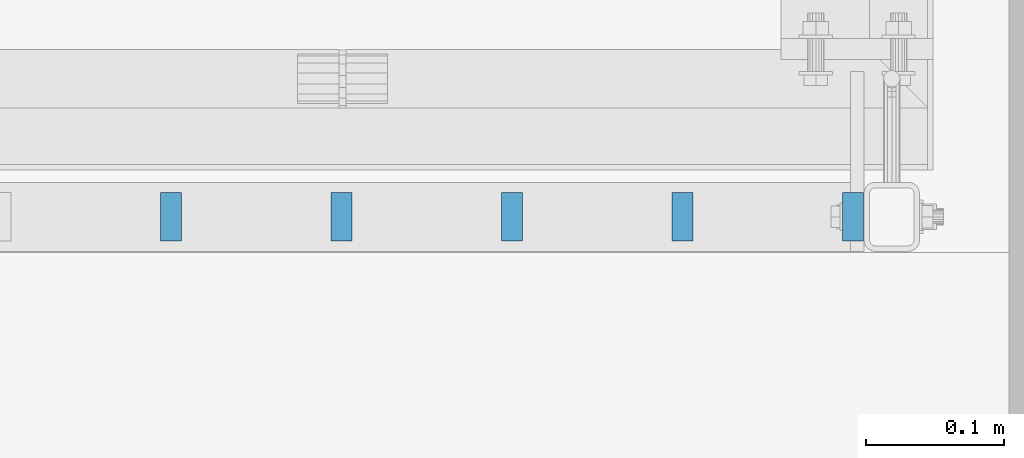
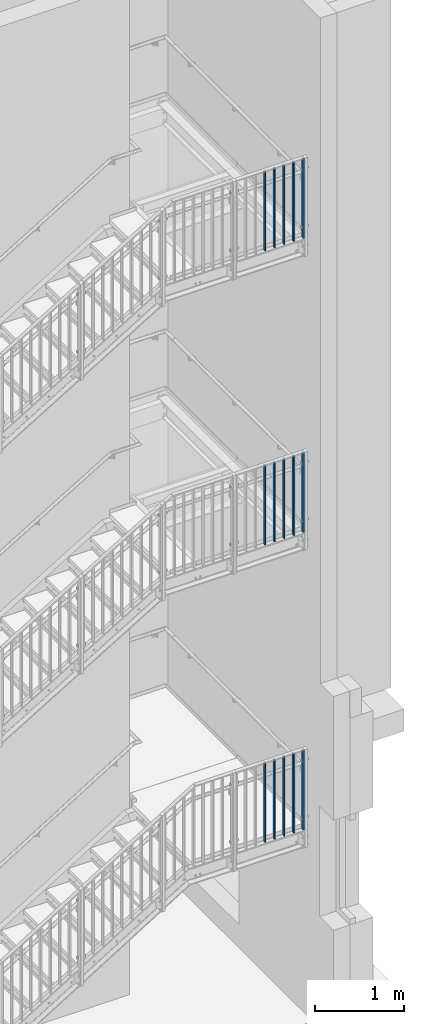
# One storey, part 23 of 410: 15 columns, 6 openings.
"""IFC2X3 building model written with IfcOpenShell, lengths in millimetres."""

from ifc_helpers import new_model, entity, si_unit, converted_unit, frame, frame_2d, origin, origin_with_axes, origin_2d, place, context, project, spatial, rectangle, circle, extrude, material, element, save


model = new_model("IFC2X3")

# Units and contexts
model_context = context("Model", 3, precision=1e-09, world=origin_with_axes())
ifc_project = project(units=[si_unit("LENGTHUNIT", "METRE", prefix="MILLI"), si_unit("AREAUNIT", "SQUARE_METRE"), si_unit("VOLUMEUNIT", "CUBIC_METRE"), converted_unit("PLANEANGLEUNIT", "DEGREE", entity("IfcPlaneAngleMeasure", 0.01745329), si_unit("PLANEANGLEUNIT", "RADIAN"), dimensions=[0, 0, 0, 0, 0, 0, 0])], contexts=[model_context])

# Site, building, storey
site_placement = place(None, origin_with_axes())
site = spatial("IfcSite", under=ifc_project, at=site_placement, Name="mKR Teilneubau & Sanierung BA1 - Ostfildern", CompositionType="ELEMENT")
building_placement = place(site_placement, origin_with_axes())
building = spatial("IfcBuilding", under=site, at=building_placement, Name="Struktur 1", CompositionType="ELEMENT")
storey_placement = place(building_placement, origin_with_axes())
storey = spatial("IfcBuildingStorey", under=building, at=storey_placement, Name="Default Storey", CompositionType="ELEMENT", Elevation=0.0)

# Columns
ifc_material = material(Name="S235JR")
for number, where, z_axis, x_axis in (
    (1, (2683.287182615, 15405.999999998, 1913.0434785), (0.0, 0.0, -1.0), (1.0, 0.0, 0.0)),
    (2, (2806.715754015, 15405.999999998, 1913.0434785), (0.0, 0.0, -1.0), (1.0, 0.0, 0.0)),
    (3, (2930.144325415, 15405.999999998, 1913.0434785), (0.0, 0.0, -1.0), (1.0, 0.0, 0.0)),
    (4, (3053.572896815, 15405.999999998, 1913.0434785), (0.0, 0.0, -1.0), (1.0, 0.0, 0.0)),
):
    element("IfcColumn", number, at=place(None, frame(where, z_axis=z_axis, x_axis=x_axis)), inside=storey, material=ifc_material, Name="-", ObjectType="-", context=model_context, shape_type="SweptSolid", body=[
        extrude(rectangle(XDim=15.0, YDim=35.0, at=origin_2d()), origin(), (0.0, 0.0, -1.0), 1085.0),
    ])

# Column, openings
column_1_placement = place(None, frame((3177.001468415, 15405.999999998, 7010.0), z_axis=(0.0, 0.0, 1.0), x_axis=(-1.0, 0.0, 0.0)))
column_1 = element("IfcColumn", 5, at=column_1_placement, inside=storey, material=ifc_material, Name="-", ObjectType="-", context=model_context, shape_type="SweptSolid", body=[
    extrude(rectangle(XDim=15.0, YDim=35.0, at=origin_2d()), origin(), (0.0, 0.0, -1.0), 1085.0),
])
opening_1_placement = place(column_1_placement, frame((-8.0, -6.001, -935.0), z_axis=(-1.0, 0.0, 0.0), x_axis=(0.0, -1.0, 0.0)))
element("IfcOpeningElement", 6, at=opening_1_placement, cuts=column_1, ObjectType="Opening", context=model_context, shape_type="SweptSolid", body=[
    extrude(circle(Radius=6.001, at=frame_2d((-6.001, 0.0), x_axis=(1.0, 0.0))), origin(), (0.0, 0.0, -1.0), 16.0),
])
opening_2_placement = place(column_1_placement, frame((-8.0, -6.001, -150.0), z_axis=(-1.0, 0.0, 0.0), x_axis=(0.0, -1.0, 0.0)))
element("IfcOpeningElement", 7, at=opening_2_placement, cuts=column_1, ObjectType="Opening", context=model_context, shape_type="SweptSolid", body=[
    extrude(circle(Radius=6.001, at=frame_2d((-6.001, 0.0), x_axis=(1.0, 0.0))), origin(), (0.0, 0.0, -1.0), 16.0),
])

# Columns
for number, where, z_axis, x_axis in (
    (8, (2683.287182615, 15405.999999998, 5925.0), (0.0, 0.0, -1.0), (1.0, 0.0, 0.0)),
    (9, (2806.715754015, 15405.999999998, 5925.0), (0.0, 0.0, -1.0), (1.0, 0.0, 0.0)),
    (10, (2930.144325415, 15405.999999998, 5925.0), (0.0, 0.0, -1.0), (1.0, 0.0, 0.0)),
    (11, (3053.572896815, 15405.999999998, 5925.0), (0.0, 0.0, -1.0), (1.0, 0.0, 0.0)),
):
    element("IfcColumn", number, at=place(None, frame(where, z_axis=z_axis, x_axis=x_axis)), inside=storey, material=ifc_material, Name="-", ObjectType="-", context=model_context, shape_type="SweptSolid", body=[
        extrude(rectangle(XDim=15.0, YDim=35.0, at=origin_2d()), origin(), (0.0, 0.0, -1.0), 1085.0),
    ])

# Column, openings
column_2_placement = place(None, frame((3177.001468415, 15405.999999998, -1060.6), z_axis=(0.0, 0.0, 1.0), x_axis=(-1.0, 0.0, 0.0)))
column_2 = element("IfcColumn", 12, at=column_2_placement, inside=storey, material=ifc_material, Name="-", ObjectType="-", context=model_context, shape_type="SweptSolid", body=[
    extrude(rectangle(XDim=15.0, YDim=35.0, at=origin_2d()), origin(), (0.0, 0.0, -1.0), 1085.0),
])
opening_3_placement = place(column_2_placement, frame((-8.0, -6.001, -935.0), z_axis=(-1.0, 0.0, 0.0), x_axis=(0.0, -1.0, 0.0)))
element("IfcOpeningElement", 13, at=opening_3_placement, cuts=column_2, ObjectType="Opening", context=model_context, shape_type="SweptSolid", body=[
    extrude(circle(Radius=6.001, at=frame_2d((-6.001, 0.0), x_axis=(1.0, 0.0))), origin(), (0.0, 0.0, -1.0), 16.0),
])
opening_4_placement = place(column_2_placement, frame((-8.0, -6.001, -150.0), z_axis=(-1.0, 0.0, 0.0), x_axis=(0.0, -1.0, 0.0)))
element("IfcOpeningElement", 14, at=opening_4_placement, cuts=column_2, ObjectType="Opening", context=model_context, shape_type="SweptSolid", body=[
    extrude(circle(Radius=6.001, at=frame_2d((-6.001, 0.0), x_axis=(1.0, 0.0))), origin(), (0.0, 0.0, -1.0), 16.0),
])

# Columns
for number, where, z_axis, x_axis in (
    (15, (2683.287182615, 15405.999999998, -2145.6), (0.0, 0.0, -1.0), (1.0, 0.0, 0.0)),
    (16, (2806.715754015, 15405.999999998, -2145.6), (0.0, 0.0, -1.0), (1.0, 0.0, 0.0)),
    (17, (2930.144325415, 15405.999999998, -2145.6), (0.0, 0.0, -1.0), (1.0, 0.0, 0.0)),
    (18, (3053.572896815, 15405.999999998, -2145.6), (0.0, 0.0, -1.0), (1.0, 0.0, 0.0)),
):
    element("IfcColumn", number, at=place(None, frame(where, z_axis=z_axis, x_axis=x_axis)), inside=storey, material=ifc_material, Name="-", ObjectType="-", context=model_context, shape_type="SweptSolid", body=[
        extrude(rectangle(XDim=15.0, YDim=35.0, at=origin_2d()), origin(), (0.0, 0.0, -1.0), 1085.0),
    ])

# Column, openings
column_3_placement = place(None, frame((3177.001468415, 15405.999999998, 2998.0434785), z_axis=(0.0, 0.0, 1.0), x_axis=(-1.0, 0.0, 0.0)))
column_3 = element("IfcColumn", 19, at=column_3_placement, inside=storey, material=ifc_material, Name="-", ObjectType="-", context=model_context, shape_type="SweptSolid", body=[
    extrude(rectangle(XDim=15.0, YDim=35.0, at=origin_2d()), origin(), (0.0, 0.0, -1.0), 1085.0),
])
opening_5_placement = place(column_3_placement, frame((-8.0, -6.001, -935.0), z_axis=(-1.0, 0.0, 0.0), x_axis=(0.0, -1.0, 0.0)))
element("IfcOpeningElement", 20, at=opening_5_placement, cuts=column_3, ObjectType="Opening", context=model_context, shape_type="SweptSolid", body=[
    extrude(circle(Radius=6.001, at=frame_2d((-6.001, 0.0), x_axis=(1.0, 0.0))), origin(), (0.0, 0.0, -1.0), 16.0),
])
opening_6_placement = place(column_3_placement, frame((-8.0, -6.001, -150.0), z_axis=(-1.0, 0.0, 0.0), x_axis=(0.0, -1.0, 0.0)))
element("IfcOpeningElement", 21, at=opening_6_placement, cuts=column_3, ObjectType="Opening", context=model_context, shape_type="SweptSolid", body=[
    extrude(circle(Radius=6.001, at=frame_2d((-6.001, 0.0), x_axis=(1.0, 0.0))), origin(), (0.0, 0.0, -1.0), 16.0),
])

save(model, "model.ifc")
